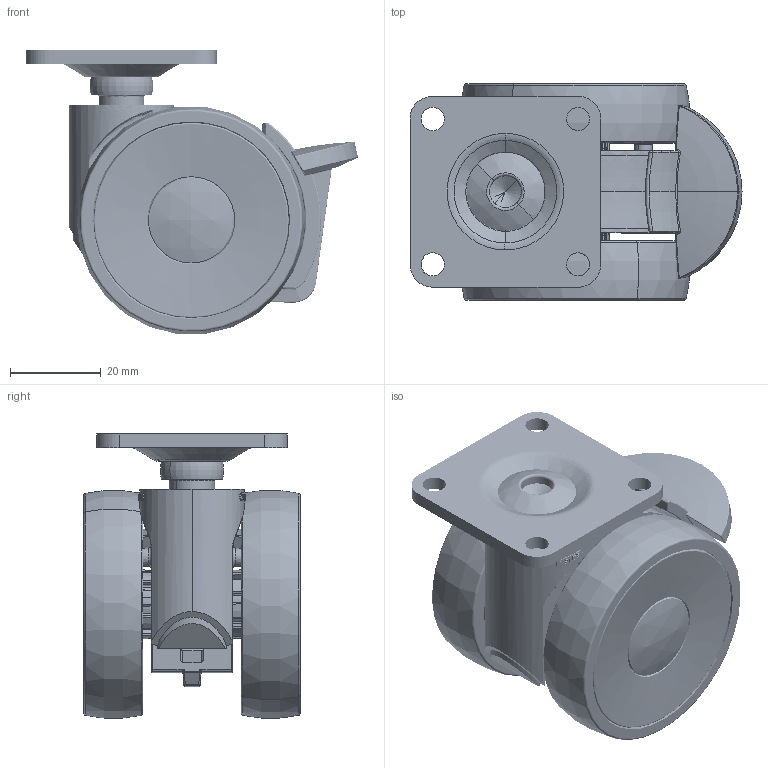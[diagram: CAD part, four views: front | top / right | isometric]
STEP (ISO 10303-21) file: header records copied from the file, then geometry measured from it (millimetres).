
FILE_DESCRIPTION (( 'STEP AP203' ), '1' );
FILE_NAME ('TENTE Koleèko Linea 50 mm s brzdou_494490_494492_494494.STEP', '2023-01-31T09:59:27', ( '' ), ( '' ), 'SwSTEP 2.0', 'SolidWorks 2019', '' );
FILE_SCHEMA (( 'CONFIG_CONTROL_DESIGN' ));
Length unit declared in the file: millimetre
Products named in the file (3): 5925UAI050 s brzdou; TENTE Koleèko Linea 50 mm s brzdou_494490_494492_494494; P41-42x42 - 10
Assembly tree (2 placements, depth 2):
  TENTE Koleèko Linea 50 mm s brzdou_494490_494492_494494
    5925UAI050 s brzdou
    P41-42x42 - 10
Bounding box: 73.07 x 47.6 x 62.52 mm (x, y, z)
Volume: 55747.2 mm3; surface area: 46979 mm2
Topology: 1 solids, 7 shells, 5812 faces, 14478 edges, 8596 vertices
Faces by surface type: bspline 1666, plane 1549, cylinder 1242, torus 642, cone 468, sphere 245
Entity records: 203410 total; most frequent: CARTESIAN_POINT 83287, ORIENTED_EDGE 28340, DIRECTION 20536, EDGE_CURVE 14174, VERTEX_POINT 8591, AXIS2_PLACEMENT_3D 8520, EDGE_LOOP 6115, B_SPLINE_CURVE_WITH_KNOTS 5851
